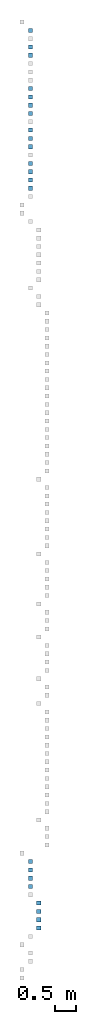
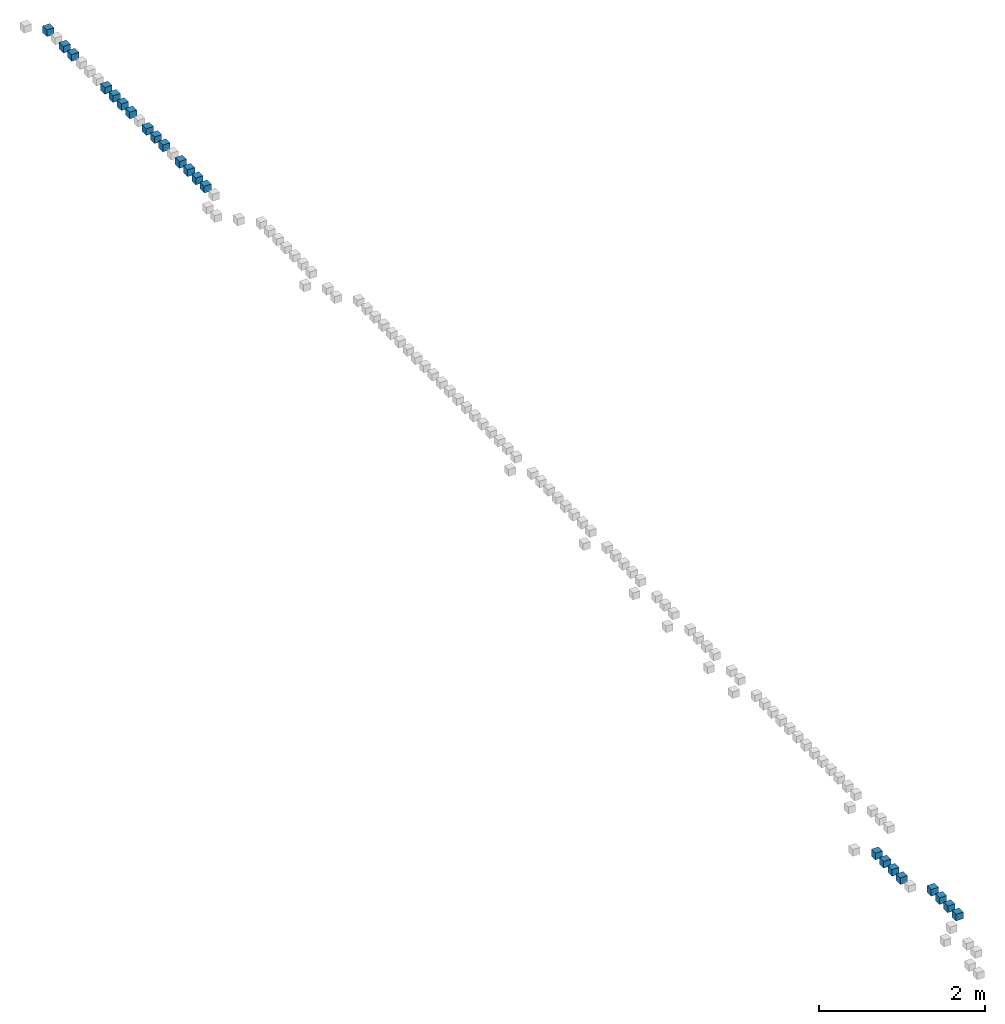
# One storey, part 1 of 7: 2 slabs, 1 beam, 1 building element part, 1 chimney, 1 column, 1 discrete accessory, 1 fastener, 1 footing, 13 other elements, 1 element without a shape of its own.
"""IFC4 building model written with IfcOpenShell, lengths in millimetres."""

from ifc_helpers import new_model, entity, si_unit, converted_unit, derived_unit, direction, frame, frame_2d, origin, origin_2d_with_axis, place, context, subcontext, project, spatial, polyline, segment, composite_curve, rectangle, outline, extrude, source, transform, mapped, material, material_profile, profile_set, profile_usage, type_object, type_shapes, element, aggregate, save


model = new_model("IFC4")

# Units and contexts
model_context = context("Model", 3, precision=0.01, world=origin(), true_north=direction((6.12303176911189e-17, 1.0)))
body_context = subcontext(model_context, "Body", "Model", "MODEL_VIEW")
ifc_project = project(units=[si_unit("LENGTHUNIT", "METRE", prefix="MILLI"), si_unit("AREAUNIT", "SQUARE_METRE"), si_unit("VOLUMEUNIT", "CUBIC_METRE"), converted_unit("PLANEANGLEUNIT", "DEGREE", entity("IfcRatioMeasure", 0.0174532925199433), si_unit("PLANEANGLEUNIT", "RADIAN"), dimensions=[0, 0, 0, 0, 0, 0, 0]), si_unit("MASSUNIT", "GRAM", prefix="KILO"), derived_unit("MASSDENSITYUNIT", [(si_unit("MASSUNIT", "GRAM", prefix="KILO"), 1), (si_unit("LENGTHUNIT", "METRE"), -3)]), derived_unit("MOMENTOFINERTIAUNIT", [(si_unit("LENGTHUNIT", "METRE"), 4)]), si_unit("TIMEUNIT", "SECOND"), si_unit("FREQUENCYUNIT", "HERTZ"), si_unit("THERMODYNAMICTEMPERATUREUNIT", "DEGREE_CELSIUS"), derived_unit("THERMALTRANSMITTANCEUNIT", [(si_unit("MASSUNIT", "GRAM", prefix="KILO"), 1), (si_unit("THERMODYNAMICTEMPERATUREUNIT", "KELVIN"), -1), (si_unit("TIMEUNIT", "SECOND"), -3)]), derived_unit("VOLUMETRICFLOWRATEUNIT", [(si_unit("LENGTHUNIT", "METRE"), 3), (si_unit("TIMEUNIT", "SECOND"), -1)]), si_unit("ELECTRICCURRENTUNIT", "AMPERE"), si_unit("ELECTRICVOLTAGEUNIT", "VOLT"), si_unit("POWERUNIT", "WATT"), si_unit("FORCEUNIT", "NEWTON", prefix="KILO"), si_unit("ILLUMINANCEUNIT", "LUX"), si_unit("LUMINOUSFLUXUNIT", "LUMEN"), si_unit("LUMINOUSINTENSITYUNIT", "CANDELA"), derived_unit("USERDEFINED", [(si_unit("MASSUNIT", "GRAM", prefix="KILO"), -1), (si_unit("LENGTHUNIT", "METRE"), -2), (si_unit("TIMEUNIT", "SECOND"), 3), (si_unit("LUMINOUSFLUXUNIT", "LUMEN"), 1)]), derived_unit("LINEARVELOCITYUNIT", [(si_unit("LENGTHUNIT", "METRE"), 1), (si_unit("TIMEUNIT", "SECOND"), -1)]), si_unit("PRESSUREUNIT", "PASCAL"), derived_unit("USERDEFINED", [(si_unit("LENGTHUNIT", "METRE"), -2), (si_unit("MASSUNIT", "GRAM", prefix="KILO"), 1), (si_unit("TIMEUNIT", "SECOND"), -2)]), derived_unit("LINEARFORCEUNIT", [(si_unit("MASSUNIT", "GRAM", prefix="KILO"), 1), (si_unit("LENGTHUNIT", "METRE"), 1), (si_unit("TIMEUNIT", "SECOND"), -2), (si_unit("LENGTHUNIT", "METRE"), -1)]), derived_unit("PLANARFORCEUNIT", [(si_unit("MASSUNIT", "GRAM", prefix="KILO"), 1), (si_unit("LENGTHUNIT", "METRE"), 1), (si_unit("TIMEUNIT", "SECOND"), -2), (si_unit("LENGTHUNIT", "METRE"), -2)])], contexts=[model_context])

# Site, building, storey
site_placement = place(None, origin())
site = spatial("IfcSite", under=ifc_project, at=site_placement, Name="Default", CompositionType="ELEMENT")
building_placement = place(site_placement, origin())
building = spatial("IfcBuilding", under=site, at=building_placement, CompositionType="ELEMENT")
storey_placement = place(building_placement, origin())
storey = spatial("IfcBuildingStorey", under=building, at=storey_placement, Name="Level 1", CompositionType="ELEMENT", Elevation=0.0)

# Footing
ifc_material = material(Name="<Unnamed>")
footing_type = type_object("IfcFootingType", Name="Generic Ifc Family:Generic Ifc Family", PredefinedType="NOTDEFINED", material=ifc_material)
shared_shape_1 = source(origin(), body_context, "Body", "SweptSolid", [
    extrude(rectangle(XDim=100.0, YDim=100.0, at=origin_2d_with_axis()), frame((50.0, 50.0, 0.0), z_axis=(0.0, 0.0, 1.0), x_axis=(0.0, -1.0, 0.0)), (0.0, 0.0, 1.0), 100.0),
])
type_shapes(footing_type, [shared_shape_1])
footing_placement = place(storey_placement, frame((200.0, 21900.0, 0.0), z_axis=(0.0, 0.0, 1.0), x_axis=(0.0, -1.0, 0.0)))
element("IfcFooting", 1, at=footing_placement, inside=storey, type_object=footing_type, material=ifc_material, Name="Generic Ifc Family:Generic Ifc Family", ObjectType="Generic Ifc Family:Generic Ifc Family", PredefinedType="NOTDEFINED", context=body_context, shape_type="MappedRepresentation", body=[
    mapped(shared_shape_1, transform((0.0, 0.0, 0.0), scale=1.0)),
])

# Pile
ifc_material_profile = material_profile(ifc_material, outline(composite_curve([segment(polyline([(0.0, 100.0, 100.0), (0.0, 0.0, 100.0)]), True, "CONTINUOUS"), segment(polyline([(0.0, 0.0, 100.0), (100.0, 0.0, 100.0)]), True, "CONTINUOUS"), segment(polyline([(100.0, 0.0, 100.0), (100.0, 100.0, 100.0)]), True, "CONTINUOUS"), segment(polyline([(100.0, 100.0, 100.0), (0.0, 100.0, 100.0)]), True, "CONTINUOUS")], self_intersect=False), kind="CURVE"), Name="Generic Ifc Family")
ifc_profile_set = profile_set([ifc_material_profile], Name="Generic Ifc Family")
pile_type = type_object("IfcPileType", Name="Generic Ifc Family:Generic Ifc Family", PredefinedType="NOTDEFINED", material=ifc_profile_set)
shared_shape_2 = source(origin(), body_context, "Body", "SweptSolid", [
    extrude(rectangle(XDim=100.0, YDim=100.0, at=origin_2d_with_axis()), frame((50.0, 50.0, 0.0), z_axis=(0.0, 0.0, 1.0), x_axis=(0.0, -1.0, 0.0)), (0.0, 0.0, 1.0), 100.0),
])
type_shapes(pile_type, [shared_shape_2])
pile_placement = place(storey_placement, frame((200.0, 21500.0, 0.0), z_axis=(0.0, 0.0, 1.0), x_axis=(0.0, -1.0, 0.0)))
element("IfcPile", 2, at=pile_placement, inside=storey, type_object=pile_type, Name="Generic Ifc Family:Generic Ifc Family", ObjectType="Generic Ifc Family:Generic Ifc Family", PredefinedType="NOTDEFINED", context=body_context, shape_type="MappedRepresentation", body=[
    mapped(shared_shape_2, transform((0.0, 0.0, 0.0), scale=1.0)),
])

# Column
ifc_profile_usage_1 = profile_usage(ifc_profile_set)
column_type = type_object("IfcColumnType", Name="Generic Ifc Family:Generic Ifc Family", PredefinedType="COLUMN", material=ifc_profile_set)
shared_shape_3 = source(origin(), body_context, "Body", "SweptSolid", [
    extrude(rectangle(XDim=100.0, YDim=100.0, at=origin_2d_with_axis()), frame((50.0, 50.0, 0.0), z_axis=(0.0, 0.0, 1.0), x_axis=(0.0, -1.0, 0.0)), (0.0, 0.0, 1.0), 100.0),
])
type_shapes(column_type, [shared_shape_3])
column_placement = place(storey_placement, frame((200.0, 22700.0, 0.0), z_axis=(0.0, 0.0, 1.0), x_axis=(0.0, -1.0, 0.0)))
element("IfcColumn", 3, at=column_placement, inside=storey, type_object=column_type, material=ifc_profile_usage_1, Name="Generic Ifc Family:Generic Ifc Family", ObjectType="Generic Ifc Family:Generic Ifc Family", PredefinedType="COLUMN", context=body_context, shape_type="MappedRepresentation", body=[
    mapped(shared_shape_3, transform((0.0, 0.0, 0.0), scale=1.0)),
])

# Beam
ifc_profile_usage_2 = profile_usage(ifc_profile_set)
beam_type = type_object("IfcBeamType", Name="Generic Ifc Family:Generic Ifc Family", PredefinedType="BEAM", material=ifc_profile_set)
shared_shape_4 = source(origin(), body_context, "Body", "SweptSolid", [
    extrude(rectangle(XDim=100.0, YDim=100.0, at=origin_2d_with_axis()), frame((50.0, 50.0, 0.0), z_axis=(0.0, 0.0, 1.0), x_axis=(0.0, -1.0, 0.0)), (0.0, 0.0, 1.0), 100.0),
])
type_shapes(beam_type, [shared_shape_4])
beam_placement = place(storey_placement, frame((200.0, 23300.0, 0.0), z_axis=(0.0, 0.0, 1.0), x_axis=(0.0, -1.0, 0.0)))
element("IfcBeam", 4, at=beam_placement, inside=storey, type_object=beam_type, material=ifc_profile_usage_2, Name="Generic Ifc Family:Generic Ifc Family", ObjectType="Generic Ifc Family:Generic Ifc Family", PredefinedType="BEAM", context=body_context, shape_type="MappedRepresentation", body=[
    mapped(shared_shape_4, transform((0.0, 0.0, 0.0), scale=1.0)),
])

# Member
ifc_profile_usage_3 = profile_usage(ifc_profile_set)
member_type = type_object("IfcMemberType", Name="Generic Ifc Family:Generic Ifc Family", PredefinedType="BRACE", material=ifc_profile_set)
shared_shape_5 = source(origin(), body_context, "Body", "SweptSolid", [
    extrude(rectangle(XDim=100.0, YDim=100.0, at=origin_2d_with_axis()), frame((50.0, 50.0, 0.0), z_axis=(0.0, 0.0, 1.0), x_axis=(0.0, -1.0, 0.0)), (0.0, 0.0, 1.0), 100.0),
])
type_shapes(member_type, [shared_shape_5])
member_placement = place(storey_placement, frame((200.0, 21700.0, 0.0), z_axis=(0.0, 0.0, 1.0), x_axis=(0.0, -1.0, 0.0)))
element("IfcMember", 5, at=member_placement, inside=storey, type_object=member_type, material=ifc_profile_usage_3, Name="Generic Ifc Family:Generic Ifc Family", ObjectType="Generic Ifc Family:Generic Ifc Family", PredefinedType="BRACE", context=body_context, shape_type="MappedRepresentation", body=[
    mapped(shared_shape_5, transform((0.0, 0.0, 0.0), scale=1.0)),
])

# Tendon
tendon_type = type_object("IfcTendonType", Name="Generic Ifc Family:Generic Ifc Family", PredefinedType="NOTDEFINED", material=ifc_material)
shared_shape_6 = source(origin(), body_context, "Body", "SweptSolid", [
    extrude(rectangle(XDim=100.0, YDim=100.0, at=origin_2d_with_axis()), frame((50.0, 50.0, 0.0), z_axis=(0.0, 0.0, 1.0), x_axis=(0.0, -1.0, 0.0)), (0.0, 0.0, 1.0), 100.0),
])
type_shapes(tendon_type, [shared_shape_6])
tendon_placement = place(storey_placement, frame((400.0, 1900.0, 0.0), z_axis=(0.0, 0.0, 1.0), x_axis=(0.0, -1.0, 0.0)))
element("IfcTendon", 6, at=tendon_placement, inside=storey, type_object=tendon_type, material=ifc_material, Name="Generic Ifc Family:Generic Ifc Family", ObjectType="Generic Ifc Family:Generic Ifc Family", PredefinedType="NOTDEFINED", context=body_context, shape_type="MappedRepresentation", body=[
    mapped(shared_shape_6, transform((0.0, 0.0, 0.0), scale=1.0)),
])

# Tendon anchor
tendon_anchor_type = type_object("IfcTendonAnchorType", Name="Generic Ifc Family:Generic Ifc Family", PredefinedType="NOTDEFINED", material=ifc_material)
shared_shape_7 = source(origin(), body_context, "Body", "SweptSolid", [
    extrude(rectangle(XDim=100.0, YDim=100.0, at=origin_2d_with_axis()), frame((50.0, 50.0, 0.0), z_axis=(0.0, 0.0, 1.0), x_axis=(0.0, -1.0, 0.0)), (0.0, 0.0, 1.0), 100.0),
])
type_shapes(tendon_anchor_type, [shared_shape_7])
tendon_anchor_placement = place(storey_placement, frame((400.0, 1700.0, 0.0), z_axis=(0.0, 0.0, 1.0), x_axis=(0.0, -1.0, 0.0)))
element("IfcTendonAnchor", 7, at=tendon_anchor_placement, inside=storey, type_object=tendon_anchor_type, material=ifc_material, Name="Generic Ifc Family:Generic Ifc Family", ObjectType="Generic Ifc Family:Generic Ifc Family", PredefinedType="NOTDEFINED", context=body_context, shape_type="MappedRepresentation", body=[
    mapped(shared_shape_7, transform((0.0, 0.0, 0.0), scale=1.0)),
])

# Plate
plate_type = type_object("IfcPlateType", Name="Generic Ifc Family:Generic Ifc Family", PredefinedType="NOTDEFINED", material=ifc_material)
shared_shape_8 = source(origin(), body_context, "Body", "SweptSolid", [
    extrude(rectangle(XDim=100.0, YDim=100.0, at=origin_2d_with_axis()), frame((50.0, 50.0, 0.0), z_axis=(0.0, 0.0, 1.0), x_axis=(0.0, -1.0, 0.0)), (0.0, 0.0, 1.0), 100.0),
])
type_shapes(plate_type, [shared_shape_8])
plate_placement = place(storey_placement, frame((200.0, 21300.0, 0.0), z_axis=(0.0, 0.0, 1.0), x_axis=(0.0, -1.0, 0.0)))
element("IfcPlate", 8, at=plate_placement, inside=storey, type_object=plate_type, material=ifc_material, Name="Generic Ifc Family:Generic Ifc Family", ObjectType="Generic Ifc Family:Generic Ifc Family", PredefinedType="NOTDEFINED", context=body_context, shape_type="MappedRepresentation", body=[
    mapped(shared_shape_8, transform((0.0, 0.0, 0.0), scale=1.0)),
])

# Roof, slab
roof_type = type_object("IfcRoofType", Name="Generic Ifc Family:Generic Ifc Family", PredefinedType="NOTDEFINED")
roof_placement = place(storey_placement, frame((200.0, 20400.0, 0.0)))
roof = element("IfcRoof", 9, at=roof_placement, inside=storey, type_object=roof_type, material=ifc_material, Name="Generic Ifc Family:Generic Ifc Family", ObjectType="Generic Ifc Family:Generic Ifc Family", PredefinedType="NOTDEFINED")
slab_type_1 = type_object("IfcSlabType", Name="Generic Ifc Family:Generic Ifc Family", PredefinedType="ROOF")
slab_1_placement = place(storey_placement, frame((200.0, 20400.0, 0.0)))
slab_1 = element("IfcSlab", 10, at=slab_1_placement, type_object=slab_type_1, Name="Generic Ifc Family:Generic Ifc Family:1", ObjectType="Generic Ifc Family:Generic Ifc Family", PredefinedType="ROOF", context=body_context, shape_type="SweptSolid", body=[
    extrude(rectangle(XDim=100.0, YDim=99.9999999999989, at=frame_2d((1.77635683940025e-14, 2.16715534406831e-12), x_axis=(1.0, 0.0))), frame((50.0, 50.0, 0.0), z_axis=(0.0, 0.0, 1.0), x_axis=(-1.0, 0.0, 0.0)), (0.0, 0.0, 1.0), 100.0),
])
aggregate(roof, [slab_1])

# Slab
slab_type_2 = type_object("IfcSlabType", Name="Generic Ifc Family:Generic Ifc Family", PredefinedType="FLOOR")
slab_2_placement = place(storey_placement, frame((200.0, 20000.0, 0.0)))
element("IfcSlab", 11, at=slab_2_placement, inside=storey, type_object=slab_type_2, Name="Generic Ifc Family:Generic Ifc Family", ObjectType="Generic Ifc Family:Generic Ifc Family", PredefinedType="FLOOR", context=body_context, shape_type="SweptSolid", body=[
    extrude(rectangle(XDim=100.0, YDim=99.9999999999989, at=frame_2d((1.77635683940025e-14, -2.16715534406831e-12), x_axis=(1.0, 0.0))), frame((50.0, 50.0, 0.0), z_axis=(0.0, 0.0, 1.0), x_axis=(-1.0, 0.0, 0.0)), (0.0, 0.0, 1.0), 100.0),
])

# Wall
wall_type = type_object("IfcWallType", Name="Generic Ifc Family:Generic Ifc Family", PredefinedType="NOTDEFINED")
wall_placement = place(storey_placement, frame((200.0, 19400.0, 0.0)))
element("IfcWall", 12, at=wall_placement, inside=storey, type_object=wall_type, Name="Generic Ifc Family:Generic Ifc Family", ObjectType="Generic Ifc Family:Generic Ifc Family", PredefinedType="NOTDEFINED", context=body_context, shape_type="SweptSolid", body=[
    extrude(rectangle(XDim=100.0, YDim=100.000000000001, at=frame_2d((1.77635683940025e-14, 0.0), x_axis=(1.0, 0.0))), frame((50.0, 50.0, 0.0), z_axis=(0.0, 0.0, 1.0), x_axis=(-1.0, 0.0, 0.0)), (0.0, 0.0, 1.0), 100.0),
])

# Stair
stair_type = type_object("IfcStairType", Name="Generic Ifc Family:Generic Ifc Family", PredefinedType="NOTDEFINED")
stair_placement = place(storey_placement, frame((200.0, 19800.0, 0.0)))
element("IfcStair", 13, at=stair_placement, inside=storey, type_object=stair_type, material=ifc_material, Name="Generic Ifc Family:Generic Ifc Family", ObjectType="Generic Ifc Family:Generic Ifc Family", PredefinedType="NOTDEFINED", context=body_context, shape_type="SweptSolid", body=[
    extrude(rectangle(XDim=100.0, YDim=99.9999999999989, at=frame_2d((1.77635683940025e-14, -2.16715534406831e-12), x_axis=(1.0, 0.0))), frame((50.0, 50.0, 0.0), z_axis=(0.0, 0.0, 1.0), x_axis=(-1.0, 0.0, 0.0)), (0.0, 0.0, 1.0), 100.0),
])

# Stair flight
stair_flight_type = type_object("IfcStairFlightType", Name="Generic Ifc Family:Generic Ifc Family", PredefinedType="NOTDEFINED", material=ifc_material)
shared_shape_9 = source(origin(), body_context, "Body", "SweptSolid", [
    extrude(rectangle(XDim=100.0, YDim=100.0, at=origin_2d_with_axis()), frame((50.0, 50.0, 0.0), z_axis=(0.0, 0.0, 1.0), x_axis=(0.0, -1.0, 0.0)), (0.0, 0.0, 1.0), 100.0),
])
type_shapes(stair_flight_type, [shared_shape_9])
stair_flight_placement = place(storey_placement, frame((200.0, 19700.0, 0.0), z_axis=(0.0, 0.0, 1.0), x_axis=(0.0, -1.0, 0.0)))
element("IfcStairFlight", 14, at=stair_flight_placement, inside=storey, type_object=stair_flight_type, material=ifc_material, Name="Generic Ifc Family:Generic Ifc Family", ObjectType="Generic Ifc Family:Generic Ifc Family", PredefinedType="NOTDEFINED", context=body_context, shape_type="MappedRepresentation", body=[
    mapped(shared_shape_9, transform((0.0, 0.0, 0.0), scale=1.0)),
])

# Ramp
ramp_type = type_object("IfcRampType", PredefinedType="NOTDEFINED")
ramp_placement = place(storey_placement, frame((200.0, 20800.0, 0.0)))
element("IfcRamp", 15, at=ramp_placement, inside=storey, type_object=ramp_type, material=ifc_material, Name="Generic Ifc Family:Generic Ifc Family", ObjectType="Generic Ifc Family:Generic Ifc Family", PredefinedType="NOTDEFINED", context=body_context, shape_type="SweptSolid", body=[
    extrude(rectangle(XDim=100.0, YDim=99.9999999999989, at=frame_2d((1.77635683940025e-14, -2.16715534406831e-12), x_axis=(1.0, 0.0))), frame((50.0, 50.0, 0.0), z_axis=(0.0, 0.0, 1.0), x_axis=(-1.0, 0.0, 0.0)), (0.0, 0.0, 1.0), 100.0),
])

# Ramp flight
ramp_flight_type = type_object("IfcRampFlightType", Name="Generic Ifc Family:Generic Ifc Family", PredefinedType="NOTDEFINED", material=ifc_material)
shared_shape_10 = source(origin(), body_context, "Body", "SweptSolid", [
    extrude(rectangle(XDim=100.0, YDim=100.0, at=origin_2d_with_axis()), frame((50.0, 50.0, 0.0), z_axis=(0.0, 0.0, 1.0), x_axis=(0.0, -1.0, 0.0)), (0.0, 0.0, 1.0), 100.0),
])
type_shapes(ramp_flight_type, [shared_shape_10])
ramp_flight_placement = place(storey_placement, frame((200.0, 20700.0, 0.0), z_axis=(0.0, 0.0, 1.0), x_axis=(0.0, -1.0, 0.0)))
element("IfcRampFlight", 16, at=ramp_flight_placement, inside=storey, type_object=ramp_flight_type, material=ifc_material, Name="Generic Ifc Family:Generic Ifc Family", ObjectType="Generic Ifc Family:Generic Ifc Family", PredefinedType="NOTDEFINED", context=body_context, shape_type="MappedRepresentation", body=[
    mapped(shared_shape_10, transform((0.0, 0.0, 0.0), scale=1.0)),
])

# Chimney
chimney_type = type_object("IfcChimneyType", Name="Generic Ifc Family:Generic Ifc Family", PredefinedType="NOTDEFINED", material=ifc_material)
shared_shape_11 = source(origin(), body_context, "Body", "SweptSolid", [
    extrude(rectangle(XDim=100.0, YDim=100.0, at=origin_2d_with_axis()), frame((50.0, 50.0, 0.0), z_axis=(0.0, 0.0, 1.0), x_axis=(0.0, -1.0, 0.0)), (0.0, 0.0, 1.0), 100.0),
])
type_shapes(chimney_type, [shared_shape_11])
chimney_placement = place(storey_placement, frame((200.0, 22900.0, 0.0), z_axis=(0.0, 0.0, 1.0), x_axis=(0.0, -1.0, 0.0)))
element("IfcChimney", 17, at=chimney_placement, inside=storey, type_object=chimney_type, material=ifc_material, Name="Generic Ifc Family:Generic Ifc Family", ObjectType="Generic Ifc Family:Generic Ifc Family", PredefinedType="NOTDEFINED", context=body_context, shape_type="MappedRepresentation", body=[
    mapped(shared_shape_11, transform((0.0, 0.0, 0.0), scale=1.0)),
])

# Building element part
building_element_part_type = type_object("IfcBuildingElementPartType", Name="Generic Ifc Family:Generic Ifc Family", PredefinedType="NOTDEFINED", material=ifc_material)
shared_shape_12 = source(origin(), body_context, "Body", "SweptSolid", [
    extrude(rectangle(XDim=100.0, YDim=100.0, at=origin_2d_with_axis()), frame((50.0, 50.0, 0.0), z_axis=(0.0, 0.0, 1.0), x_axis=(0.0, -1.0, 0.0)), (0.0, 0.0, 1.0), 100.0),
])
type_shapes(building_element_part_type, [shared_shape_12])
building_element_part_placement = place(storey_placement, frame((200.0, 3300.0, 0.0), z_axis=(0.0, 0.0, 1.0), x_axis=(0.0, -1.0, 0.0)))
element("IfcBuildingElementPart", 18, at=building_element_part_placement, inside=storey, type_object=building_element_part_type, material=ifc_material, Name="Generic Ifc Family:Generic Ifc Family", ObjectType="Generic Ifc Family:Generic Ifc Family", PredefinedType="NOTDEFINED", context=body_context, shape_type="MappedRepresentation", body=[
    mapped(shared_shape_12, transform((0.0, 0.0, 0.0), scale=1.0)),
])

# Discrete accessory
discrete_accessory_type = type_object("IfcDiscreteAccessoryType", Name="Generic Ifc Family:Generic Ifc Family", PredefinedType="NOTDEFINED", material=ifc_material)
shared_shape_13 = source(origin(), body_context, "Body", "SweptSolid", [
    extrude(rectangle(XDim=100.0, YDim=100.0, at=origin_2d_with_axis()), frame((50.0, 50.0, 0.0), z_axis=(0.0, 0.0, 1.0), x_axis=(0.0, -1.0, 0.0)), (0.0, 0.0, 1.0), 100.0),
])
type_shapes(discrete_accessory_type, [shared_shape_13])
discrete_accessory_placement = place(storey_placement, frame((200.0, 3100.0, 0.0), z_axis=(0.0, 0.0, 1.0), x_axis=(0.0, -1.0, 0.0)))
element("IfcDiscreteAccessory", 19, at=discrete_accessory_placement, inside=storey, type_object=discrete_accessory_type, material=ifc_material, Name="Generic Ifc Family:Generic Ifc Family", ObjectType="Generic Ifc Family:Generic Ifc Family", PredefinedType="NOTDEFINED", context=body_context, shape_type="MappedRepresentation", body=[
    mapped(shared_shape_13, transform((0.0, 0.0, 0.0), scale=1.0)),
])

# Fastener
fastener_type = type_object("IfcFastenerType", Name="Generic Ifc Family:Generic Ifc Family", PredefinedType="NOTDEFINED", material=ifc_material)
shared_shape_14 = source(origin(), body_context, "Body", "SweptSolid", [
    extrude(rectangle(XDim=100.0, YDim=100.0, at=origin_2d_with_axis()), frame((50.0, 50.0, 0.0), z_axis=(0.0, 0.0, 1.0), x_axis=(0.0, -1.0, 0.0)), (0.0, 0.0, 1.0), 100.0),
])
type_shapes(fastener_type, [shared_shape_14])
fastener_placement = place(storey_placement, frame((200.0, 2900.0, 0.0), z_axis=(0.0, 0.0, 1.0), x_axis=(0.0, -1.0, 0.0)))
element("IfcFastener", 20, at=fastener_placement, inside=storey, type_object=fastener_type, material=ifc_material, Name="Generic Ifc Family:Generic Ifc Family", ObjectType="Generic Ifc Family:Generic Ifc Family", PredefinedType="NOTDEFINED", context=body_context, shape_type="MappedRepresentation", body=[
    mapped(shared_shape_14, transform((0.0, 0.0, 0.0), scale=1.0)),
])

# Mechanical fastener
mechanical_fastener_type = type_object("IfcMechanicalFastenerType", Name="Generic Ifc Family:Generic Ifc Family", PredefinedType="NOTDEFINED", material=ifc_material)
shared_shape_15 = source(origin(), body_context, "Body", "SweptSolid", [
    extrude(rectangle(XDim=100.0, YDim=100.0, at=origin_2d_with_axis()), frame((50.0, 50.0, 0.0), z_axis=(0.0, 0.0, 1.0), x_axis=(0.0, -1.0, 0.0)), (0.0, 0.0, 1.0), 100.0),
])
type_shapes(mechanical_fastener_type, [shared_shape_15])
mechanical_fastener_placement = place(storey_placement, frame((200.0, 2700.0, 0.0), z_axis=(0.0, 0.0, 1.0), x_axis=(0.0, -1.0, 0.0)))
element("IfcMechanicalFastener", 21, at=mechanical_fastener_placement, inside=storey, type_object=mechanical_fastener_type, material=ifc_material, Name="Generic Ifc Family:Generic Ifc Family", ObjectType="Generic Ifc Family:Generic Ifc Family", PredefinedType="NOTDEFINED", context=body_context, shape_type="MappedRepresentation", body=[
    mapped(shared_shape_15, transform((0.0, 0.0, 0.0), scale=1.0)),
])

# Reinforcing bar
reinforcing_bar_type = type_object("IfcReinforcingBarType", Name="Generic Ifc Family:Generic Ifc Family", PredefinedType="NOTDEFINED", material=ifc_material)
shared_shape_16 = source(origin(), body_context, "Body", "SweptSolid", [
    extrude(rectangle(XDim=100.0, YDim=100.0, at=origin_2d_with_axis()), frame((50.0, 50.0, 0.0), z_axis=(0.0, 0.0, 1.0), x_axis=(0.0, -1.0, 0.0)), (0.0, 0.0, 1.0), 100.0),
])
type_shapes(reinforcing_bar_type, [shared_shape_16])
reinforcing_bar_placement = place(storey_placement, frame((400.0, 2300.0, 0.0), z_axis=(0.0, 0.0, 1.0), x_axis=(0.0, -1.0, 0.0)))
element("IfcReinforcingBar", 22, at=reinforcing_bar_placement, inside=storey, type_object=reinforcing_bar_type, material=ifc_material, Name="Generic Ifc Family:Generic Ifc Family", ObjectType="Generic Ifc Family:Generic Ifc Family", PredefinedType="NOTDEFINED", context=body_context, shape_type="MappedRepresentation", body=[
    mapped(shared_shape_16, transform((0.0, 0.0, 0.0), scale=1.0)),
])

# Reinforcing mesh
reinforcing_mesh_type = type_object("IfcReinforcingMeshType", Name="Generic Ifc Family:Generic Ifc Family", PredefinedType="NOTDEFINED", material=ifc_material)
shared_shape_17 = source(origin(), body_context, "Body", "SweptSolid", [
    extrude(rectangle(XDim=100.0, YDim=100.0, at=origin_2d_with_axis()), frame((50.0, 50.0, 0.0), z_axis=(0.0, 0.0, 1.0), x_axis=(0.0, -1.0, 0.0)), (0.0, 0.0, 1.0), 100.0),
])
type_shapes(reinforcing_mesh_type, [shared_shape_17])
reinforcing_mesh_placement = place(storey_placement, frame((400.0, 2100.0, 0.0), z_axis=(0.0, 0.0, 1.0), x_axis=(0.0, -1.0, 0.0)))
element("IfcReinforcingMesh", 23, at=reinforcing_mesh_placement, inside=storey, type_object=reinforcing_mesh_type, material=ifc_material, Name="Generic Ifc Family:Generic Ifc Family", ObjectType="Generic Ifc Family:Generic Ifc Family", PredefinedType="NOTDEFINED", context=body_context, shape_type="MappedRepresentation", body=[
    mapped(shared_shape_17, transform((0.0, 0.0, 0.0), scale=1.0)),
])

save(model, "model.ifc")
